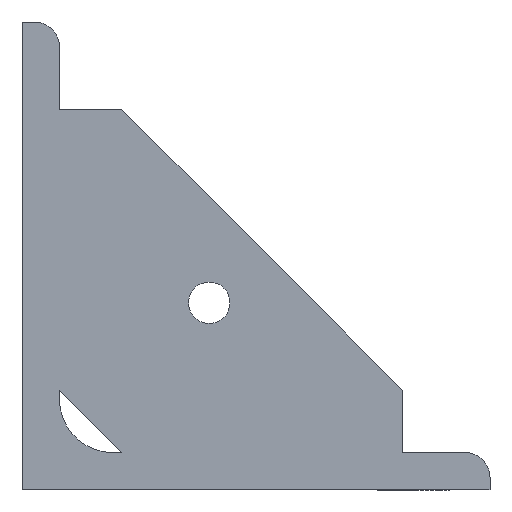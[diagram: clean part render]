
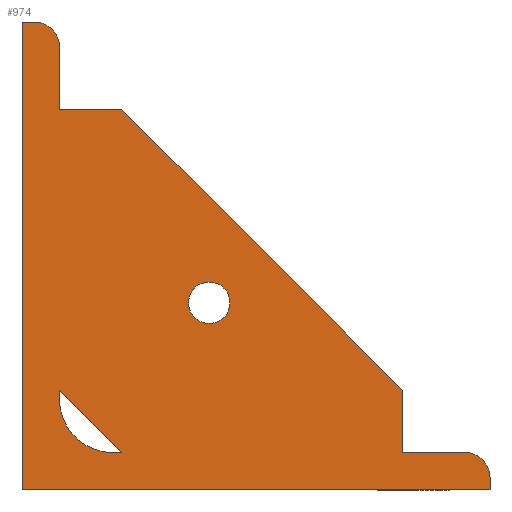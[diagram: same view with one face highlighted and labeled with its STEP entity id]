
A CAD part, left-side view. The second image highlights one B-rep face of the part: STEP entity #974.
In plain terms, the highlighted planar face has unit normal (-1, 0, 0).
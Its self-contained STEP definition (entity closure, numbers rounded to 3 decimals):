
#33=PLANE('',#1037);
#53=LINE('',#1296,#126);
#57=LINE('',#1304,#130);
#62=LINE('',#1318,#135);
#82=LINE('',#1380,#155);
#86=LINE('',#1388,#159);
#89=LINE('',#1394,#162);
#92=LINE('',#1406,#165);
#95=LINE('',#1412,#168);
#98=LINE('',#1424,#171);
#99=LINE('',#1428,#172);
#100=LINE('',#1430,#173);
#101=LINE('',#1431,#174);
#126=VECTOR('',#1094,1000.);
#130=VECTOR('',#1098,1000.);
#135=VECTOR('',#1109,1000.);
#155=VECTOR('',#1159,1000.);
#159=VECTOR('',#1163,1000.);
#162=VECTOR('',#1168,1000.);
#165=VECTOR('',#1179,1000.);
#168=VECTOR('',#1184,1000.);
#171=VECTOR('',#1199,1000.);
#172=VECTOR('',#1204,1000.);
#173=VECTOR('',#1205,1000.);
#174=VECTOR('',#1206,1000.);
#300=ORIENTED_EDGE('',*,*,#473,.T.);
#301=ORIENTED_EDGE('',*,*,#474,.F.);
#302=ORIENTED_EDGE('',*,*,#451,.F.);
#303=ORIENTED_EDGE('',*,*,#475,.T.);
#304=ORIENTED_EDGE('',*,*,#467,.F.);
#305=ORIENTED_EDGE('',*,*,#464,.F.);
#306=ORIENTED_EDGE('',*,*,#421,.F.);
#307=ORIENTED_EDGE('',*,*,#458,.F.);
#308=ORIENTED_EDGE('',*,*,#476,.T.);
#309=ORIENTED_EDGE('',*,*,#414,.F.);
#310=ORIENTED_EDGE('',*,*,#477,.F.);
#311=ORIENTED_EDGE('',*,*,#478,.F.);
#312=ORIENTED_EDGE('',*,*,#455,.F.);
#313=ORIENTED_EDGE('',*,*,#479,.F.);
#314=ORIENTED_EDGE('',*,*,#410,.F.);
#315=ORIENTED_EDGE('',*,*,#480,.T.);
#410=EDGE_CURVE('',#509,#510,#53,.T.);
#414=EDGE_CURVE('',#513,#514,#57,.T.);
#421=EDGE_CURVE('',#520,#521,#62,.T.);
#451=EDGE_CURVE('',#546,#547,#82,.T.);
#455=EDGE_CURVE('',#550,#541,#86,.T.);
#458=EDGE_CURVE('',#552,#520,#89,.T.);
#464=EDGE_CURVE('',#521,#558,#92,.T.);
#467=EDGE_CURVE('',#558,#560,#95,.T.);
#473=EDGE_CURVE('',#562,#562,#591,.T.);
#474=EDGE_CURVE('',#547,#563,#98,.T.);
#475=EDGE_CURVE('',#546,#560,#592,.T.);
#476=EDGE_CURVE('',#552,#514,#593,.T.);
#477=EDGE_CURVE('',#564,#513,#99,.T.);
#478=EDGE_CURVE('',#563,#564,#100,.T.);
#479=EDGE_CURVE('',#510,#550,#101,.T.);
#480=EDGE_CURVE('',#509,#541,#594,.F.);
#509=VERTEX_POINT('',#1295);
#510=VERTEX_POINT('',#1297);
#513=VERTEX_POINT('',#1303);
#514=VERTEX_POINT('',#1305);
#520=VERTEX_POINT('',#1319);
#521=VERTEX_POINT('',#1320);
#541=VERTEX_POINT('',#1370);
#546=VERTEX_POINT('',#1379);
#547=VERTEX_POINT('',#1381);
#550=VERTEX_POINT('',#1387);
#552=VERTEX_POINT('',#1393);
#558=VERTEX_POINT('',#1407);
#560=VERTEX_POINT('',#1413);
#562=VERTEX_POINT('',#1423);
#563=VERTEX_POINT('',#1425);
#564=VERTEX_POINT('',#1429);
#591=CIRCLE('',#1038,3.324);
#592=CIRCLE('',#1039,4.);
#593=CIRCLE('',#1040,4.);
#594=CIRCLE('',#1041,8.5);
#621=EDGE_LOOP('',(#300));
#622=EDGE_LOOP('',(#301,#302,#303,#304,#305,#306,#307,#308,#309,#310,#311));
#623=EDGE_LOOP('',(#312,#313,#314,#315));
#672=FACE_BOUND('',#621,.T.);
#673=FACE_BOUND('',#622,.T.);
#674=FACE_BOUND('',#623,.T.);
#974=ADVANCED_FACE('',(#672,#673,#674),#33,.T.);
#1037=AXIS2_PLACEMENT_3D('',#1421,#1195,#1196);
#1038=AXIS2_PLACEMENT_3D('',#1422,#1197,#1198);
#1039=AXIS2_PLACEMENT_3D('',#1426,#1200,#1201);
#1040=AXIS2_PLACEMENT_3D('',#1427,#1202,#1203);
#1041=AXIS2_PLACEMENT_3D('',#1432,#1207,#1208);
#1094=DIRECTION('',(0.,-1.,0.));
#1098=DIRECTION('',(0.,-1.,0.));
#1109=DIRECTION('',(0.,1.,0.));
#1159=DIRECTION('',(0.,0.,-1.));
#1163=DIRECTION('',(0.,0.,-1.));
#1168=DIRECTION('',(0.,0.,-1.));
#1179=DIRECTION('',(0.,0.,1.));
#1184=DIRECTION('',(0.,-1.,0.));
#1195=DIRECTION('',(-1.,0.,0.));
#1196=DIRECTION('',(0.,0.,1.));
#1197=DIRECTION('',(1.,0.,0.));
#1198=DIRECTION('',(0.,0.,1.));
#1199=DIRECTION('',(0.,-1.,0.));
#1200=DIRECTION('',(-1.,0.,0.));
#1201=DIRECTION('',(0.,0.,1.));
#1202=DIRECTION('',(-1.,0.,0.));
#1203=DIRECTION('',(0.,0.,1.));
#1204=DIRECTION('',(0.,0.,-1.));
#1205=DIRECTION('',(0.,-0.707,-0.707));
#1206=DIRECTION('',(0.,0.707,0.707));
#1207=DIRECTION('',(-1.,0.,0.));
#1208=DIRECTION('',(0.,0.,1.));
#1295=CARTESIAN_POINT('',(-22.5,-14.5,6.));
#1296=CARTESIAN_POINT('',(-22.5,-6.,6.));
#1297=CARTESIAN_POINT('',(-22.5,-16.,6.));
#1303=CARTESIAN_POINT('',(-22.5,-61.,6.));
#1304=CARTESIAN_POINT('',(-22.5,-6.,6.));
#1305=CARTESIAN_POINT('',(-22.5,-71.,6.));
#1318=CARTESIAN_POINT('',(-22.5,-75.,0.));
#1319=CARTESIAN_POINT('',(-22.5,-75.,0.));
#1320=CARTESIAN_POINT('',(-22.5,0.,0.));
#1370=CARTESIAN_POINT('',(-22.5,-6.,14.5));
#1379=CARTESIAN_POINT('',(-22.5,-6.,71.));
#1380=CARTESIAN_POINT('',(-22.5,-6.,75.));
#1381=CARTESIAN_POINT('',(-22.5,-6.,61.));
#1387=CARTESIAN_POINT('',(-22.5,-6.,16.));
#1388=CARTESIAN_POINT('',(-22.5,-6.,75.));
#1393=CARTESIAN_POINT('',(-22.5,-75.,2.));
#1394=CARTESIAN_POINT('',(-22.5,-75.,6.));
#1406=CARTESIAN_POINT('',(-22.5,0.,0.));
#1407=CARTESIAN_POINT('',(-22.5,0.,75.));
#1412=CARTESIAN_POINT('',(-22.5,0.,75.));
#1413=CARTESIAN_POINT('',(-22.5,-2.,75.));
#1421=CARTESIAN_POINT('',(-22.5,0.,0.));
#1422=CARTESIAN_POINT('',(-22.5,-30.,30.));
#1423=CARTESIAN_POINT('',(-22.5,-30.,33.324));
#1424=CARTESIAN_POINT('',(-22.5,-6.,61.));
#1425=CARTESIAN_POINT('',(-22.5,-16.,61.));
#1426=CARTESIAN_POINT('',(-22.5,-2.,71.));
#1427=CARTESIAN_POINT('',(-22.5,-71.,2.));
#1428=CARTESIAN_POINT('',(-22.5,-61.,16.));
#1429=CARTESIAN_POINT('',(-22.5,-61.,16.));
#1430=CARTESIAN_POINT('',(-22.5,-16.,61.));
#1431=CARTESIAN_POINT('',(-22.5,-16.,6.));
#1432=CARTESIAN_POINT('',(-22.5,-14.5,14.5));
